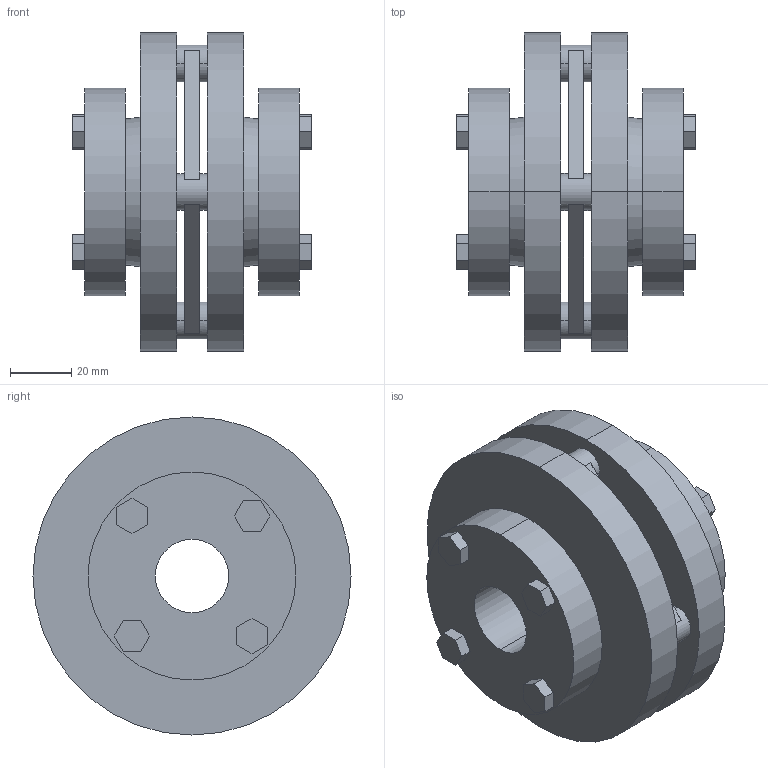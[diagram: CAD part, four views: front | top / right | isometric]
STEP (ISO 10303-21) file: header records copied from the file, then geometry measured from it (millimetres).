
FILE_DESCRIPTION (( 'STEP AP203' ), '1' );
FILE_NAME ('SW-104(D£p24~£p30).STEP', '2009-09-30T15:43:12', ( 'USER' ), ( 'HOME' ), 'SwSTEP 2.0', 'SolidWorks 2007', '' );
FILE_SCHEMA (( 'CONFIG_CONTROL_DESIGN' ));
Length unit declared in the file: millimetre
Products named in the file (1): SW-104(D｣p24~｣p30)
Bounding box: 78 x 104 x 104 mm (x, y, z)
Volume: 316589.8 mm3; surface area: 71196.5 mm2
Topology: 9 solids, 9 shells, 108 faces, 270 edges, 180 vertices
Faces by surface type: plane 78, cylinder 26, cone 4
Entity records: 3327 total; most frequent: DIRECTION 564, CARTESIAN_POINT 559, ORIENTED_EDGE 540, EDGE_CURVE 270, VECTOR 194, LINE 194, AXIS2_PLACEMENT_3D 185, VERTEX_POINT 180
